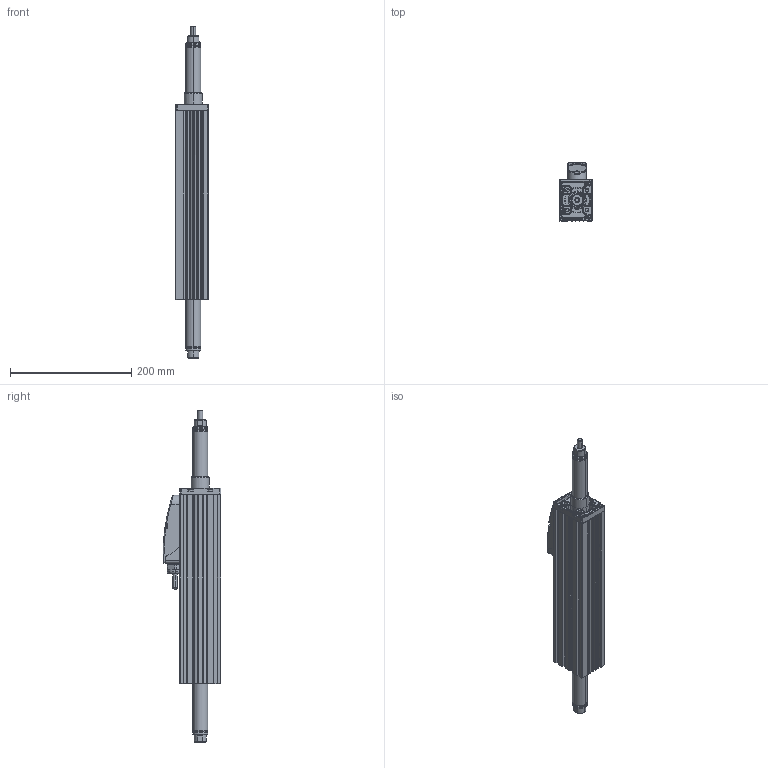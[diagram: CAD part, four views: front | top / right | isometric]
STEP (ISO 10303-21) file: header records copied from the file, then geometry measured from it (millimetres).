
FILE_DESCRIPTION (( 'STEP AP203' ), '1' );
FILE_NAME ('STA2510-155.STEP', '2011-10-13T14:17:28', ( 'showsden' ), ( '' ), 'SwSTEP 2.0', 'SolidWorks 2011', '' );
FILE_SCHEMA (( 'CONFIG_CONTROL_DESIGN' ));
Products named in the file (14): ST25 POD (DLS)_ST25 POD (SOLID); Screw, Cap Head, M2.5_Screw, Cap Head, M2.5 x 6; Screw, Button Head, M3_Screw, Button Head, M3 x 10; PG16 Gland Nut (REV2)_PG16 (REV 2); SIGNAL CABLE_FLEXING (SIGNAL); POWER CABLE_FLEXING (POWER); ST25 CABLE ASSEMBLY (REV2)_MA02197 (FLEXING); MP02254-D ST25 Pod Base Gasket_MP02254; ST25 POD ASSEMBLY (DLS)_ST25 POD ASSEMBLY (SOLID); STA25 MOTOR HOUSING (REV-B)_STA2510; STA25 Bearing End Support - Solid_MP02261; Screw, Cap Head, M4_Screw, Cap Head, M4 x 16; TRA25 Thrust Rod - Solid_TRA2510 (155); STA2510-155
Assembly tree (20 placements, depth 4):
  STA2510-155
    Screw, Cap Head, M4_Screw, Cap Head, M4 x 16  x4
    STA25 Bearing End Support - Solid_MP02261
    TRA25 Thrust Rod - Solid_TRA2510 (155)
    STA25 MOTOR HOUSING (REV-B)_STA2510
    ST25 POD ASSEMBLY (DLS)_ST25 POD ASSEMBLY (SOLID)
      Screw, Cap Head, M2.5_Screw, Cap Head, M2.5 x 6  x2
      MP02254-D ST25 Pod Base Gasket_MP02254
      Screw, Button Head, M3_Screw, Button Head, M3 x 10  x4
      ST25 CABLE ASSEMBLY (REV2)_MA02197 (FLEXING)
        PG16 Gland Nut (REV2)_PG16 (REV 2)
        POWER CABLE_FLEXING (POWER)
        SIGNAL CABLE_FLEXING (SIGNAL)
      ST25 POD (DLS)_ST25 POD (SOLID)
Bounding box: 54 x 95.5 x 548 mm (x, y, z)
Volume: 1156285.1 mm3; surface area: 276890.2 mm2
Topology: 18 solids, 18 shells, 1636 faces, 4226 edges, 2687 vertices
Faces by surface type: plane 567, cylinder 516, bspline 365, cone 116, torus 56, sphere 16
Entity records: 75343 total; most frequent: CARTESIAN_POINT 39247, ORIENTED_EDGE 7888, DIRECTION 6221, EDGE_CURVE 3944, VERTEX_POINT 2531, AXIS2_PLACEMENT_3D 2326, EDGE_LOOP 1659, LINE 1569
